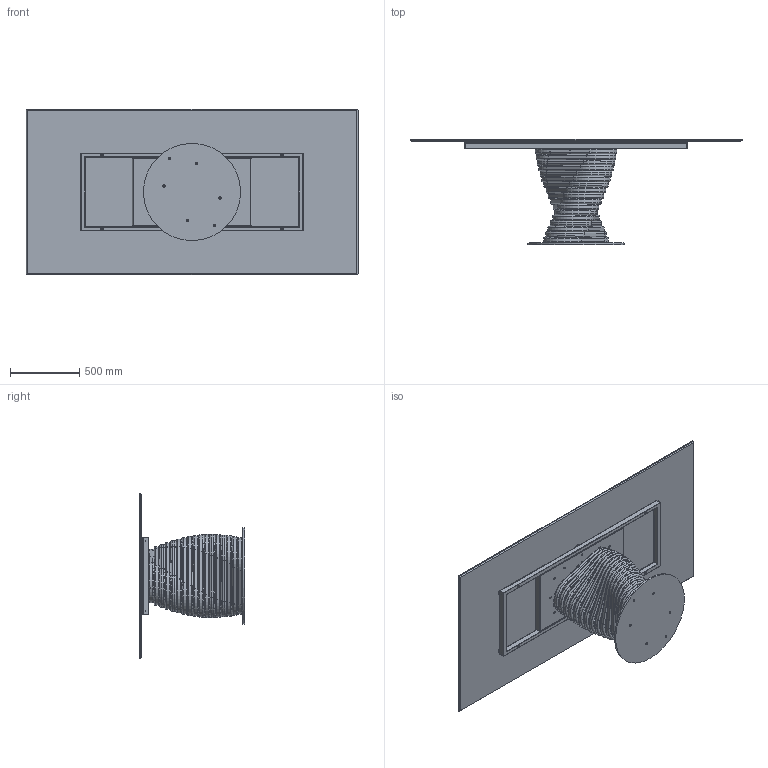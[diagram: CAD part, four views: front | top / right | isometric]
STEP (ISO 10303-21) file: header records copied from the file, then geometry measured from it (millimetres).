
FILE_DESCRIPTION (( 'STEP AP203' ), '1' );
FILE_NAME ('RO22C.STEP', '2024-08-07T13:36:56', ( '' ), ( '' ), 'SwSTEP 2.0', 'SolidWorks 2022', '' );
FILE_SCHEMA (( 'CONFIG_CONTROL_DESIGN' ));
Length unit declared in the file: millimetre
Products named in the file (15): TTAV01_01-05-TELAIO UNIVERSALE X TAVOLI 180 240cm; ROBX00000INF-00-Anello rotolo INFERIORE_Default<A macchina>; ROB200000-00-PIASTRA BASE_Ø70cm; rondella M8_8X24; M8xXXmm_M8x20mm; ROBX00000-00-ROTOLO BASE 17 ANELLI; K2XCMXX-00-Piani Rettangolari in ceramica_2390 x 1190; TTAV01-05-TELAIO UNIVERSALE X TAVOLI 180 240cm; RO22C; M8xXXmm_hex_M8X20mm; TTAV01_02-05-VASSOIO IRRIGIDIMENTO TELAIO UNIVERSALE; ROBX00000MED-00-Anello rotolo MEDIO_Default<A macchina>; 434070-00-PIEDINO TPV GOMMA NERO D. 30x8max18_filo estetico; ROBX00000SUP-00-Anello rotolo SUPERIORE_Default<A macchina>; COLLO TELAIO UNIVERSALE TTAV01 CON FERRAMENTA_MTG TOP CRISTALLO VERNICIATO-CERAMICA
Assembly tree (44 placements, depth 4):
  RO22C
    ROB200000-00-PIASTRA BASE_Ø70cm
    ROBX00000-00-ROTOLO BASE 17 ANELLI
      ROBX00000INF-00-Anello rotolo INFERIORE_Default<A macchina>
      ROBX00000MED-00-Anello rotolo MEDIO_Default<A macchina>  x15
      ROBX00000SUP-00-Anello rotolo SUPERIORE_Default<A macchina>
    M8xXXmm_hex_M8X20mm  x6
    COLLO TELAIO UNIVERSALE TTAV01 CON FERRAMENTA_MTG TOP CRISTALLO VERNICIATO-CERAMICA
      TTAV01-05-TELAIO UNIVERSALE X TAVOLI 180 240cm
        TTAV01_02-05-VASSOIO IRRIGIDIMENTO TELAIO UNIVERSALE
        TTAV01_01-05-TELAIO UNIVERSALE X TAVOLI 180 240cm
      434070-00-PIEDINO TPV GOMMA NERO D. 30x8max18_filo estetico  x6
    rondella M8_8X24  x4
    M8xXXmm_M8x20mm  x4
    K2XCMXX-00-Piani Rettangolari in ceramica_2390 x 1190
Bounding box: 2390 x 758 x 1190 mm (x, y, z)
Volume: 58474631.2 mm3; surface area: 19310903.2 mm2
Topology: 99 solids, 99 shells, 1510 faces, 3584 edges, 2246 vertices
Faces by surface type: plane 628, cylinder 554, torus 220, cone 100, sphere 8
Entity records: 21132 total; most frequent: CARTESIAN_POINT 4797, DIRECTION 3023, ORIENTED_EDGE 2808, EDGE_CURVE 1404, AXIS2_PLACEMENT_3D 1125, VERTEX_POINT 891, VECTOR 773, LINE 773
